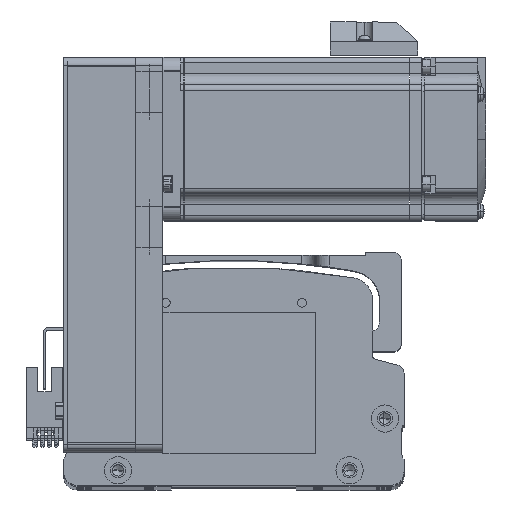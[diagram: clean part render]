
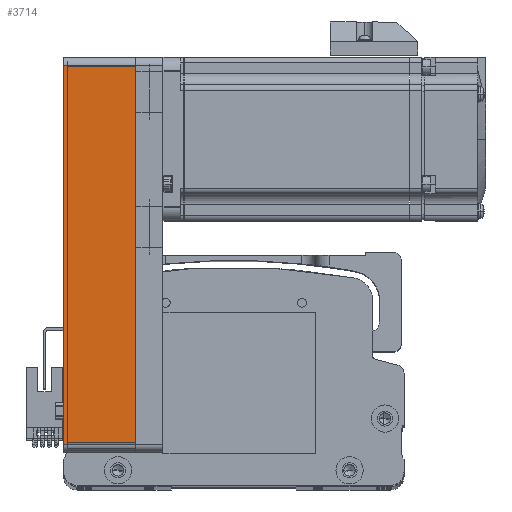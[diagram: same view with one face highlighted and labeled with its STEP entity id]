
A CAD part, top view. The second image highlights one B-rep face of the part: STEP entity #3714.
In plain terms, the highlighted planar face has unit normal (0, 0, 1) as drawn and (0, -1, 0) by its records, which use the part's own axes.
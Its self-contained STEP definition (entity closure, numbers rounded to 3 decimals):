
#3270 = CARTESIAN_POINT ( 'NONE',  ( -69.5, -30., 26.5 ) ) ;
#3714 = ADVANCED_FACE ( 'NONE', ( #45409 ), #75331, .F. ) ;
#7308 = ORIENTED_EDGE ( 'NONE', *, *, #70074, .T. ) ;
#7335 = DIRECTION ( 'NONE',  ( 0., 0., 1. ) ) ;
#7867 = CARTESIAN_POINT ( 'NONE',  ( -69.5, -30., 0. ) ) ;
#13285 = VECTOR ( 'NONE', #7335, 1000. ) ;
#14998 = VERTEX_POINT ( 'NONE', #69401 ) ;
#18391 = CARTESIAN_POINT ( 'NONE',  ( 72.5, -30., 26.5 ) ) ;
#21025 = CARTESIAN_POINT ( 'NONE',  ( 69.5, -30., 26.5 ) ) ;
#22376 = EDGE_CURVE ( 'NONE', #14998, #44121, #68086, .T. ) ;
#23291 = VECTOR ( 'NONE', #32485, 1000. ) ;
#24831 = DIRECTION ( 'NONE',  ( -1., 0., 0. ) ) ;
#28075 = CARTESIAN_POINT ( 'NONE',  ( 72.5, -30., 26.5 ) ) ;
#29640 = LINE ( 'NONE', #33249, #63454 ) ;
#32485 = DIRECTION ( 'NONE',  ( 0., 0., -1. ) ) ;
#33080 = EDGE_LOOP ( 'NONE', ( #61908, #36991, #66419, #7308 ) ) ;
#33249 = CARTESIAN_POINT ( 'NONE',  ( 72.5, -30., 0. ) ) ;
#36991 = ORIENTED_EDGE ( 'NONE', *, *, #22376, .T. ) ;
#44121 = VERTEX_POINT ( 'NONE', #21025 ) ;
#45409 = FACE_OUTER_BOUND ( 'NONE', #33080, .T. ) ;
#52045 = EDGE_CURVE ( 'NONE', #53143, #14998, #29640, .T. ) ;
#52217 = AXIS2_PLACEMENT_3D ( 'NONE', #18391, #62952, #24831 ) ;
#52267 = CARTESIAN_POINT ( 'NONE',  ( 69.5, -30., 26.5 ) ) ;
#52486 = LINE ( 'NONE', #28075, #67378 ) ;
#53143 = VERTEX_POINT ( 'NONE', #7867 ) ;
#57161 = LINE ( 'NONE', #70468, #23291 ) ;
#58240 = VERTEX_POINT ( 'NONE', #3270 ) ;
#58716 = EDGE_CURVE ( 'NONE', #58240, #44121, #52486, .T. ) ;
#61908 = ORIENTED_EDGE ( 'NONE', *, *, #52045, .T. ) ;
#62952 = DIRECTION ( 'NONE',  ( 0., 1., 0. ) ) ;
#63454 = VECTOR ( 'NONE', #71200, 1000. ) ;
#66419 = ORIENTED_EDGE ( 'NONE', *, *, #58716, .F. ) ;
#67378 = VECTOR ( 'NONE', #72453, 1000. ) ;
#68086 = LINE ( 'NONE', #52267, #13285 ) ;
#69401 = CARTESIAN_POINT ( 'NONE',  ( 69.5, -30., 0. ) ) ;
#70074 = EDGE_CURVE ( 'NONE', #58240, #53143, #57161, .T. ) ;
#70468 = CARTESIAN_POINT ( 'NONE',  ( -69.5, -30., 26.5 ) ) ;
#71200 = DIRECTION ( 'NONE',  ( 1., 0., 0. ) ) ;
#72453 = DIRECTION ( 'NONE',  ( 1., 0., 0. ) ) ;
#75331 = PLANE ( 'NONE',  #52217 ) ;
